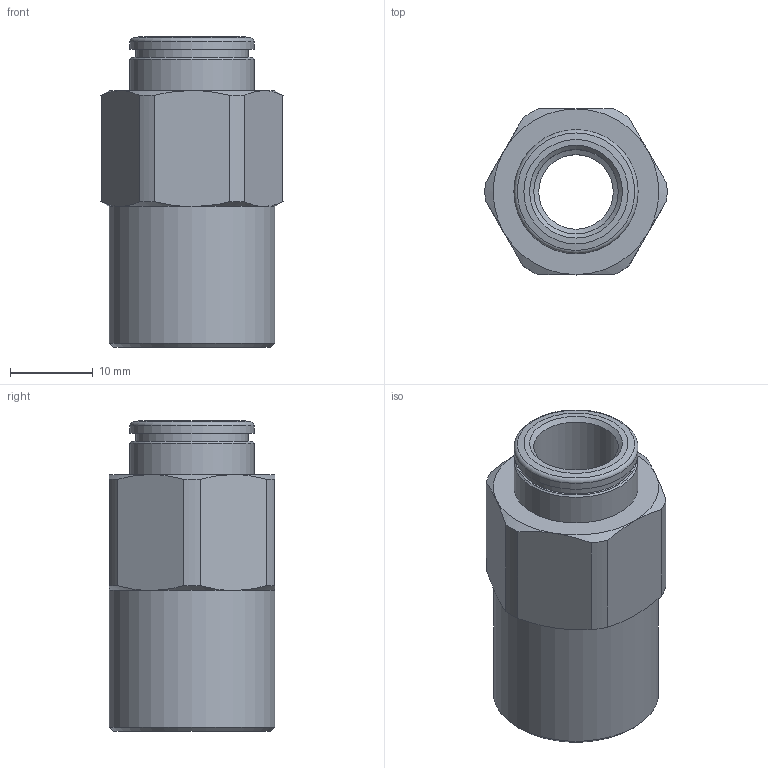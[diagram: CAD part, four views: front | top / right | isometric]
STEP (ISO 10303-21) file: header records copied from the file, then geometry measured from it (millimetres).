
FILE_DESCRIPTION(('Bauteilbeschreibung','HiCAD-Model','HiCAD-STEP-TRANSLATION','Bauteilbeschreibung'),'2;1');
FILE_NAME('B:/ABGLEICH/ZEICHNUNGEN/STEP FÜR INTERNET/STEP/200210_IPSO_02_10_3-8.STP','2011-07-18T07:38:16+00:00',('Konstrukteur'),('Konstrukteur Firma GmbH'),' HiCAD neXt 2008, Step 3.1.1401.2J ','HiCAD neXt 2008','confidential');
FILE_SCHEMA(('AUTOMOTIVE_DESIGN { 1 2 10303 214 0 1 1 1 }'));
Length unit declared in the file: millimetre
Products named in the file (5): A00210_IPSO_02_10_3_8; DR10_N; R200210_N; R2002100N; G 3_8
Assembly tree (4 placements, depth 3):
  A00210_IPSO_02_10_3_8
    DR10_N
    R200210_N
    R2002100N
      G 3_8
Bounding box: 21.99 x 20 x 37.5 mm (x, y, z)
Volume: 6507.8 mm3; surface area: 6356.8 mm2
Topology: 3 solids, 3 shells, 61 faces, 129 edges, 78 vertices
Faces by surface type: cone 24, cylinder 20, plane 16, torus 1
Full cylindrical faces by diameter (mm): 9 x1, 10.2 x2, 12.3 x1, 13 x1, 13.6 x1, 13.7 x1, 14.95 x2, 15 x2, 16.662 x2, 20 x1
Entity records: 2038 total; most frequent: CARTESIAN_POINT 285, DIRECTION 270, ORIENTED_EDGE 192, AXIS2_PLACEMENT_3D 129, COLOUR_RGB 99, PRESENTATION_STYLE_ASSIGNMENT 99, EDGE_LOOP 98, CURVE_STYLE 96
